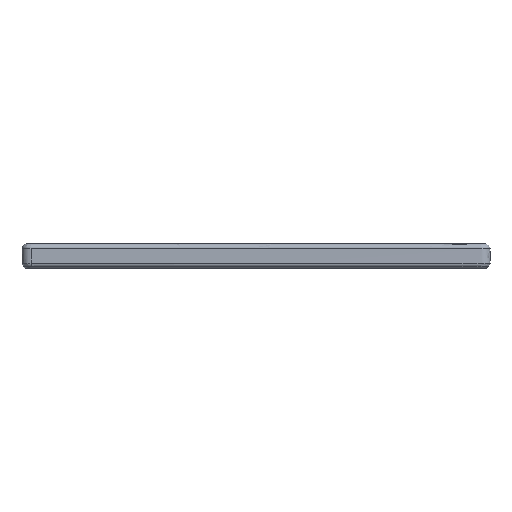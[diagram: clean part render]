
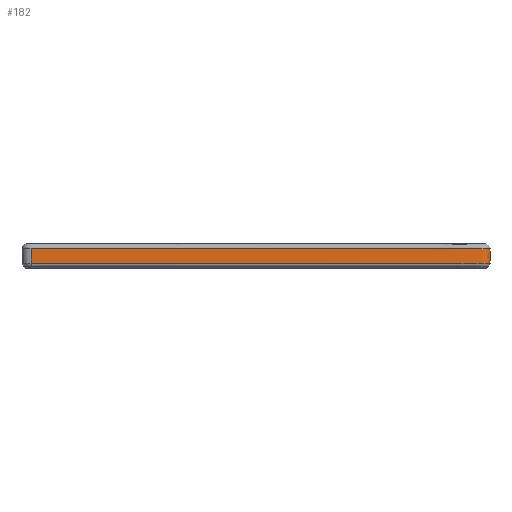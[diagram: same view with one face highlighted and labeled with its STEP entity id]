
A CAD part, front view. The second image highlights one B-rep face of the part: STEP entity #182.
In plain terms, the highlighted free-form (B-spline) face has degree [1, 2] with [2, 9] control points.
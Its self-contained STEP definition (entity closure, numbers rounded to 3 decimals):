
#182=ADVANCED_FACE($,(#1944,#1709),#21257,.T.);
#1709=FACE_BOUND($,#3640,.T.);
#1944=FACE_OUTER_BOUND($,#3639,.T.);
#3639=EDGE_LOOP($,(#6283,#6284,#6285,#6286));
#3640=EDGE_LOOP($,(#6287,#6288,#6289,#6290));
#6283=ORIENTED_EDGE($,*,*,#14094,.T.);
#6284=ORIENTED_EDGE($,*,*,#14088,.T.);
#6285=ORIENTED_EDGE($,*,*,#14087,.T.);
#6286=ORIENTED_EDGE($,*,*,#18381,.F.);
#6287=ORIENTED_EDGE($,*,*,#18234,.F.);
#6288=ORIENTED_EDGE($,*,*,#18233,.F.);
#6289=ORIENTED_EDGE($,*,*,#18232,.F.);
#6290=ORIENTED_EDGE($,*,*,#18231,.F.);
#14087=EDGE_CURVE($,#18531,#21159,#22907,.T.);
#14088=EDGE_CURVE($,#18530,#18531,#23451,.T.);
#14094=EDGE_CURVE($,#18534,#18530,#22912,.T.);
#18231=EDGE_CURVE($,#21098,#21099,#27231,.T.);
#18232=EDGE_CURVE($,#21099,#21100,#27232,.T.);
#18233=EDGE_CURVE($,#21100,#21101,#27233,.T.);
#18234=EDGE_CURVE($,#21101,#21098,#27234,.T.);
#18381=EDGE_CURVE($,#18534,#21159,#27275,.T.);
#18530=VERTEX_POINT($,#72021);
#18531=VERTEX_POINT($,#72022);
#18534=VERTEX_POINT($,#72025);
#21098=VERTEX_POINT($,#74589);
#21099=VERTEX_POINT($,#74590);
#21100=VERTEX_POINT($,#74591);
#21101=VERTEX_POINT($,#74592);
#21159=VERTEX_POINT($,#74650);
#21257=(
BOUNDED_SURFACE()
B_SPLINE_SURFACE(1,2,((#63796,#63797,#63798,#63799,#63800,#63801,#63802,
#63803,#63804),(#63805,#63806,#63807,#63808,#63809,#63810,#63811,#63812,
#63813)),.UNSPECIFIED.,.F.,.F.,.F.)
B_SPLINE_SURFACE_WITH_KNOTS((2,2),(3,2,2,2,3),(1.615,6.4),(-992.85,
-988.137,-949.137,-944.425,-796.425),
.UNSPECIFIED.)
GEOMETRIC_REPRESENTATION_ITEM()
RATIONAL_B_SPLINE_SURFACE(((1.,0.707,1.,1.,1.,0.707,
1.,1.,1.),(1.,0.707,1.,1.,1.,0.707,1.,1.,1.)))
REPRESENTATION_ITEM($)
SURFACE()
);
#22907=(
BOUNDED_CURVE()
B_SPLINE_CURVE(3,(#30069,#30070,#30071,#30072,#30073,#30074,#30075,#30076,
#30077,#30078,#30079,#30080,#30081,#30082,#30083,#30084,#30085,#30086,#30087),
.UNSPECIFIED.,.F.,.F.)
B_SPLINE_CURVE_WITH_KNOTS((4,1,1,1,3,3,1,1,1,3,4),(0.,
0.51,1.063,1.619,2.199,41.199,
41.709,42.262,42.818,43.398,191.398),
.UNSPECIFIED.)
CURVE()
GEOMETRIC_REPRESENTATION_ITEM()
RATIONAL_B_SPLINE_CURVE((1.,1.,1.,1.,1.,1.,1.,1.,1.,1.,1.,1.,1.,1.,1.,1.,
1.,1.,1.))
REPRESENTATION_ITEM($)
);
#22912=(
BOUNDED_CURVE()
B_SPLINE_CURVE(3,(#30204,#30205,#30206,#30207,#30208,#30209,#30210,#30211,
#30212,#30213,#30214,#30215,#30216,#30217,#30218,#30219,#30220,#30221,#30222,
#30223,#30224,#30225,#30226,#30227,#30228,#30229,#30230,#30231,#30232,#30233,
#30234,#30235,#30236,#30237,#30238,#30239,#30240,#30241,#30242,#30243,#30244,
#30245,#30246,#30247,#30248,#30249,#30250,#30251,#30252,#30253,#30254,#30255,
#30256),.UNSPECIFIED.,.F.,.F.)
B_SPLINE_CURVE_WITH_KNOTS((4,3,1,1,1,1,1,1,1,1,1,1,1,1,1,1,1,1,1,1,1,1,1,
3,1,1,3,1,1,1,1,1,1,1,1,1,1,1,1,1,1,1,1,1,4),(191.398,339.398,
339.462,339.526,339.653,339.909,339.976,
340.043,340.109,340.176,340.319,340.39,
340.462,340.529,340.596,340.731,340.874,
341.017,341.158,341.298,341.369,341.439,
341.518,341.597,360.488,369.933,380.598,
380.855,381.112,381.248,381.384,381.451,
381.518,381.669,381.804,381.938,382.006,
382.073,382.152,382.23,382.516,382.586,
382.656,382.726,382.796),.UNSPECIFIED.)
CURVE()
GEOMETRIC_REPRESENTATION_ITEM()
RATIONAL_B_SPLINE_CURVE((1.,1.,1.,1.,1.,1.,1.,1.,1.,1.,1.,1.,1.,1.,1.,1.,
1.,1.,1.,1.,1.,1.,1.,1.,1.,1.,1.,1.,1.,1.,1.,1.,1.,1.,1.,1.,1.,1.,1.,1.,
1.,1.,1.,1.,1.,1.,1.,1.,1.,1.,1.,1.,1.))
REPRESENTATION_ITEM($)
);
#23451=B_SPLINE_CURVE_WITH_KNOTS($,1,(#30088,#30089),.UNSPECIFIED.,.F.,.F.,
(2,2),(1.663,6.4),.UNSPECIFIED.);
#27231=B_SPLINE_CURVE_WITH_KNOTS($,1,(#54055,#54056),.UNSPECIFIED.,.F.,.F.,
(2,2),(0.,10.),.UNSPECIFIED.);
#27232=B_SPLINE_CURVE_WITH_KNOTS($,1,(#54057,#54058),.UNSPECIFIED.,.F.,.F.,
(2,2),(10.,10.1),.UNSPECIFIED.);
#27233=B_SPLINE_CURVE_WITH_KNOTS($,1,(#54059,#54060),.UNSPECIFIED.,.F.,.F.,
(2,2),(10.1,10.2),.UNSPECIFIED.);
#27234=B_SPLINE_CURVE_WITH_KNOTS($,1,(#54061,#54062),.UNSPECIFIED.,.F.,.F.,
(2,2),(10.2,10.3),.UNSPECIFIED.);
#27275=B_SPLINE_CURVE_WITH_KNOTS($,1,(#54816,#54817),.UNSPECIFIED.,.F.,.F.,
(2,2),(1.663,6.4),.UNSPECIFIED.);
#30069=CARTESIAN_POINT($,(151.,45.,3.9));
#30070=CARTESIAN_POINT($,(151.365,45.,3.9));
#30071=CARTESIAN_POINT($,(152.124,44.86,3.9));
#30072=CARTESIAN_POINT($,(153.122,44.232,3.9));
#30073=CARTESIAN_POINT($,(153.829,43.225,3.9));
#30074=CARTESIAN_POINT($,(154.,42.414,3.9));
#30075=CARTESIAN_POINT($,(154.,42.,3.9));
#30076=CARTESIAN_POINT($,(154.,29.,3.9));
#30077=CARTESIAN_POINT($,(154.,16.,3.9));
#30078=CARTESIAN_POINT($,(154.,3.,3.9));
#30079=CARTESIAN_POINT($,(154.,2.635,3.9));
#30080=CARTESIAN_POINT($,(153.86,1.876,3.9));
#30081=CARTESIAN_POINT($,(153.232,0.878,3.9));
#30082=CARTESIAN_POINT($,(152.225,0.171,3.9));
#30083=CARTESIAN_POINT($,(151.414,0.,3.9));
#30084=CARTESIAN_POINT($,(151.,0.,3.9));
#30085=CARTESIAN_POINT($,(101.667,0.,3.9));
#30086=CARTESIAN_POINT($,(52.333,0.,3.9));
#30087=CARTESIAN_POINT($,(3.,0.,3.9));
#30088=CARTESIAN_POINT($,(151.,45.,-0.837));
#30089=CARTESIAN_POINT($,(151.,45.,3.9));
#30204=CARTESIAN_POINT($,(3.,0.,-0.837));
#30205=CARTESIAN_POINT($,(52.333,0.,-0.837));
#30206=CARTESIAN_POINT($,(101.667,0.,-0.837));
#30207=CARTESIAN_POINT($,(151.,0.,-0.837));
#30208=CARTESIAN_POINT($,(151.046,0.,-0.837));
#30209=CARTESIAN_POINT($,(151.137,0.002,-0.837));
#30210=CARTESIAN_POINT($,(151.319,0.015,-0.837));
#30211=CARTESIAN_POINT($,(151.635,0.058,-0.837));
#30212=CARTESIAN_POINT($,(151.946,0.145,-0.837));
#30213=CARTESIAN_POINT($,(152.203,0.25,-0.837));
#30214=CARTESIAN_POINT($,(152.333,0.311,-0.837));
#30215=CARTESIAN_POINT($,(152.46,0.378,-0.837));
#30216=CARTESIAN_POINT($,(152.63,0.478,-0.837));
#30217=CARTESIAN_POINT($,(152.795,0.593,-0.837));
#30218=CARTESIAN_POINT($,(152.953,0.721,-0.837));
#30219=CARTESIAN_POINT($,(153.064,0.822,-0.837));
#30220=CARTESIAN_POINT($,(153.169,0.925,-0.837));
#30221=CARTESIAN_POINT($,(153.298,1.068,-0.837));
#30222=CARTESIAN_POINT($,(153.451,1.261,-0.837));
#30223=CARTESIAN_POINT($,(153.613,1.515,-0.837));
#30224=CARTESIAN_POINT($,(153.75,1.788,-0.837));
#30225=CARTESIAN_POINT($,(153.858,2.072,-0.837));
#30226=CARTESIAN_POINT($,(153.924,2.314,-0.837));
#30227=CARTESIAN_POINT($,(153.961,2.512,-0.837));
#30228=CARTESIAN_POINT($,(153.983,2.667,-0.837));
#30229=CARTESIAN_POINT($,(153.997,2.83,-0.837));
#30230=CARTESIAN_POINT($,(154.,2.943,-0.837));
#30231=CARTESIAN_POINT($,(154.,3.,-0.837));
#30232=CARTESIAN_POINT($,(154.,9.297,-0.837));
#30233=CARTESIAN_POINT($,(154.,18.742,-0.837));
#30234=CARTESIAN_POINT($,(154.,31.742,-0.837));
#30235=CARTESIAN_POINT($,(154.,38.446,-0.837));
#30236=CARTESIAN_POINT($,(154.,42.,-0.837));
#30237=CARTESIAN_POINT($,(154.,42.184,-0.837));
#30238=CARTESIAN_POINT($,(153.966,42.551,-0.837));
#30239=CARTESIAN_POINT($,(153.839,43.001,-0.837));
#30240=CARTESIAN_POINT($,(153.686,43.347,-0.837));
#30241=CARTESIAN_POINT($,(153.567,43.558,-0.837));
#30242=CARTESIAN_POINT($,(153.46,43.719,-0.837));
#30243=CARTESIAN_POINT($,(153.339,43.883,-0.837));
#30244=CARTESIAN_POINT($,(153.175,44.074,-0.837));
#30245=CARTESIAN_POINT($,(152.956,44.281,-0.837));
#30246=CARTESIAN_POINT($,(152.766,44.428,-0.837));
#30247=CARTESIAN_POINT($,(152.606,44.535,-0.837));
#30248=CARTESIAN_POINT($,(152.475,44.614,-0.837));
#30249=CARTESIAN_POINT($,(152.334,44.689,-0.837));
#30250=CARTESIAN_POINT($,(152.047,44.821,-0.837));
#30251=CARTESIAN_POINT($,(151.75,44.914,-0.837));
#30252=CARTESIAN_POINT($,(151.45,44.967,-0.837));
#30253=CARTESIAN_POINT($,(151.3,44.986,-0.837));
#30254=CARTESIAN_POINT($,(151.15,44.997,-0.837));
#30255=CARTESIAN_POINT($,(151.05,45.,-0.837));
#30256=CARTESIAN_POINT($,(151.,45.,-0.837));
#54055=CARTESIAN_POINT($,(154.,17.4,-0.1));
#54056=CARTESIAN_POINT($,(154.,27.6,-0.1));
#54057=CARTESIAN_POINT($,(154.,27.6,-0.1));
#54058=CARTESIAN_POINT($,(154.,27.6,3.1));
#54059=CARTESIAN_POINT($,(154.,27.6,3.1));
#54060=CARTESIAN_POINT($,(154.,17.4,3.1));
#54061=CARTESIAN_POINT($,(154.,17.4,3.1));
#54062=CARTESIAN_POINT($,(154.,17.4,-0.1));
#54816=CARTESIAN_POINT($,(3.,0.,-0.837));
#54817=CARTESIAN_POINT($,(3.,0.,3.9));
#63796=CARTESIAN_POINT($,(151.,45.,-0.885));
#63797=CARTESIAN_POINT($,(154.,45.,-0.885));
#63798=CARTESIAN_POINT($,(154.,42.,-0.885));
#63799=CARTESIAN_POINT($,(154.,22.5,-0.885));
#63800=CARTESIAN_POINT($,(154.,3.,-0.885));
#63801=CARTESIAN_POINT($,(154.,0.,-0.885));
#63802=CARTESIAN_POINT($,(151.,0.,-0.885));
#63803=CARTESIAN_POINT($,(77.,0.,-0.885));
#63804=CARTESIAN_POINT($,(3.,0.,-0.885));
#63805=CARTESIAN_POINT($,(151.,45.,3.9));
#63806=CARTESIAN_POINT($,(154.,45.,3.9));
#63807=CARTESIAN_POINT($,(154.,42.,3.9));
#63808=CARTESIAN_POINT($,(154.,22.5,3.9));
#63809=CARTESIAN_POINT($,(154.,3.,3.9));
#63810=CARTESIAN_POINT($,(154.,0.,3.9));
#63811=CARTESIAN_POINT($,(151.,0.,3.9));
#63812=CARTESIAN_POINT($,(77.,0.,3.9));
#63813=CARTESIAN_POINT($,(3.,0.,3.9));
#72021=CARTESIAN_POINT($,(151.,45.,-0.837));
#72022=CARTESIAN_POINT($,(151.,45.,3.9));
#72025=CARTESIAN_POINT($,(3.,0.,-0.837));
#74589=CARTESIAN_POINT($,(154.,17.4,-0.1));
#74590=CARTESIAN_POINT($,(154.,27.6,-0.1));
#74591=CARTESIAN_POINT($,(154.,27.6,3.1));
#74592=CARTESIAN_POINT($,(154.,17.4,3.1));
#74650=CARTESIAN_POINT($,(3.,0.,3.9));
